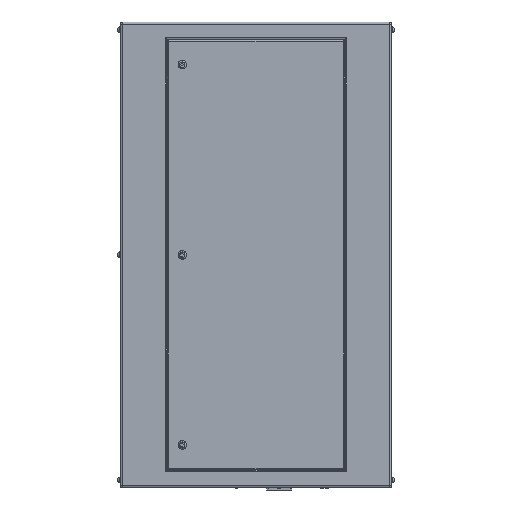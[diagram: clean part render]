
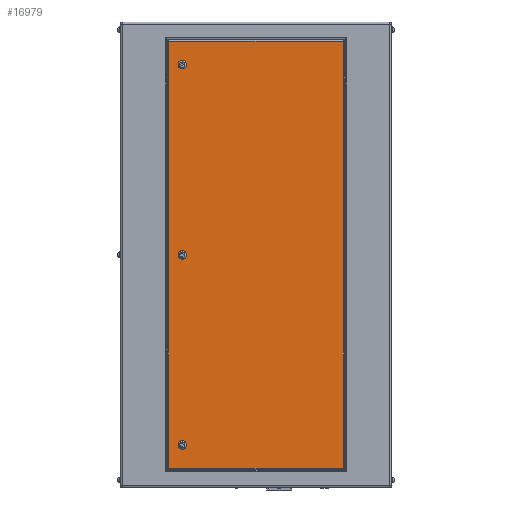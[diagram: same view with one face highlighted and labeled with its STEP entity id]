
A CAD part, left-side view. The second image highlights one B-rep face of the part: STEP entity #16979.
In plain terms, the highlighted planar face has unit normal (-1, 0, 0).
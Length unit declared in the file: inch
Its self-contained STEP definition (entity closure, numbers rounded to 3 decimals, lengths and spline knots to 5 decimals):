
#470 = LINE ( 'NONE', #32149, #36025 ) ;
#654 = VECTOR ( 'NONE', #27511, 39.37008 ) ;
#1061 = CARTESIAN_POINT ( 'NONE',  ( -18.5, 9.5, 25.05 ) ) ;
#1207 = DIRECTION ( 'NONE',  ( 0., 0., -1. ) ) ;
#1250 = PLANE ( 'NONE',  #4625 ) ;
#1652 = CARTESIAN_POINT ( 'NONE',  ( -18.5, 11.24, -27.49 ) ) ;
#1713 = VERTEX_POINT ( 'NONE', #10475 ) ;
#3262 = EDGE_LOOP ( 'NONE', ( #18543, #33400 ) ) ;
#3957 = DIRECTION ( 'NONE',  ( 0., -1., 0. ) ) ;
#4625 = AXIS2_PLACEMENT_3D ( 'NONE', #36324, #33641, #10284 ) ;
#4979 = EDGE_LOOP ( 'NONE', ( #34472, #18270 ) ) ;
#5206 = ORIENTED_EDGE ( 'NONE', *, *, #37235, .T. ) ;
#5911 = DIRECTION ( 'NONE',  ( 0., 0., -1. ) ) ;
#6804 = EDGE_LOOP ( 'NONE', ( #21046, #33631 ) ) ;
#6984 = ORIENTED_EDGE ( 'NONE', *, *, #23027, .T. ) ;
#8000 = DIRECTION ( 'NONE',  ( 1., 0., 0. ) ) ;
#8626 = EDGE_CURVE ( 'NONE', #36461, #21214, #36568, .T. ) ;
#9647 = CARTESIAN_POINT ( 'NONE',  ( -18.5, 17.5, -27.49 ) ) ;
#9952 = AXIS2_PLACEMENT_3D ( 'NONE', #18557, #27538, #1207 ) ;
#10088 = FACE_BOUND ( 'NONE', #3262, .T. ) ;
#10274 = CIRCLE ( 'NONE', #19325, 0.55 ) ;
#10284 = DIRECTION ( 'NONE',  ( 0., 0., -1. ) ) ;
#10460 = FACE_BOUND ( 'NONE', #4979, .T. ) ;
#10475 = CARTESIAN_POINT ( 'NONE',  ( -18.5, -11.24, -27.49 ) ) ;
#10758 = CARTESIAN_POINT ( 'NONE',  ( -18.5, -11.24, -30. ) ) ;
#10928 = CARTESIAN_POINT ( 'NONE',  ( -18.5, 9.5, 0.55 ) ) ;
#11238 = VERTEX_POINT ( 'NONE', #1652 ) ;
#11273 = DIRECTION ( 'NONE',  ( 1., 0., 0. ) ) ;
#12363 = VERTEX_POINT ( 'NONE', #10928 ) ;
#12943 = FACE_BOUND ( 'NONE', #6804, .T. ) ;
#13487 = FACE_OUTER_BOUND ( 'NONE', #14268, .T. ) ;
#13917 = EDGE_CURVE ( 'NONE', #1713, #29290, #21783, .T. ) ;
#13920 = VECTOR ( 'NONE', #34869, 39.37008 ) ;
#14268 = EDGE_LOOP ( 'NONE', ( #6984, #19681, #5206, #28813 ) ) ;
#15597 = CARTESIAN_POINT ( 'NONE',  ( -18.5, 9.5, -25.05 ) ) ;
#15982 = CARTESIAN_POINT ( 'NONE',  ( -18.5, 9.5, 23.95 ) ) ;
#16606 = CIRCLE ( 'NONE', #9952, 0.55 ) ;
#16871 = CIRCLE ( 'NONE', #18052, 0.55 ) ;
#16924 = AXIS2_PLACEMENT_3D ( 'NONE', #36842, #33992, #28690 ) ;
#16979 = ADVANCED_FACE ( 'NONE', ( #12943, #10460, #10088, #13487 ), #1250, .F. ) ;
#16990 = VERTEX_POINT ( 'NONE', #35941 ) ;
#18052 = AXIS2_PLACEMENT_3D ( 'NONE', #18663, #32779, #26698 ) ;
#18270 = ORIENTED_EDGE ( 'NONE', *, *, #36342, .T. ) ;
#18290 = CARTESIAN_POINT ( 'NONE',  ( -18.5, 11.24, -30. ) ) ;
#18543 = ORIENTED_EDGE ( 'NONE', *, *, #8626, .T. ) ;
#18557 = CARTESIAN_POINT ( 'NONE',  ( -18.5, 9.5, 0. ) ) ;
#18663 = CARTESIAN_POINT ( 'NONE',  ( -18.5, 9.5, 24.5 ) ) ;
#19325 = AXIS2_PLACEMENT_3D ( 'NONE', #19566, #34785, #5911 ) ;
#19410 = VERTEX_POINT ( 'NONE', #34949 ) ;
#19549 = DIRECTION ( 'NONE',  ( 0., 0., -1. ) ) ;
#19566 = CARTESIAN_POINT ( 'NONE',  ( -18.5, 9.5, -24.5 ) ) ;
#19681 = ORIENTED_EDGE ( 'NONE', *, *, #13917, .T. ) ;
#21046 = ORIENTED_EDGE ( 'NONE', *, *, #30597, .T. ) ;
#21214 = VERTEX_POINT ( 'NONE', #1061 ) ;
#21783 = LINE ( 'NONE', #10758, #654 ) ;
#22867 = DIRECTION ( 'NONE',  ( 0., 0., -1. ) ) ;
#23027 = EDGE_CURVE ( 'NONE', #11238, #1713, #30526, .T. ) ;
#23733 = EDGE_CURVE ( 'NONE', #21214, #36461, #16871, .T. ) ;
#24090 = VECTOR ( 'NONE', #3957, 39.37008 ) ;
#25185 = VERTEX_POINT ( 'NONE', #15597 ) ;
#25412 = CIRCLE ( 'NONE', #16924, 0.55 ) ;
#26692 = LINE ( 'NONE', #18290, #13920 ) ;
#26698 = DIRECTION ( 'NONE',  ( 0., 0., -1. ) ) ;
#26921 = CARTESIAN_POINT ( 'NONE',  ( -18.5, 11.24, 27.49 ) ) ;
#27511 = DIRECTION ( 'NONE',  ( 0., 0., 1. ) ) ;
#27538 = DIRECTION ( 'NONE',  ( 1., 0., 0. ) ) ;
#28690 = DIRECTION ( 'NONE',  ( 0., 0., -1. ) ) ;
#28694 = VERTEX_POINT ( 'NONE', #26921 ) ;
#28813 = ORIENTED_EDGE ( 'NONE', *, *, #29969, .T. ) ;
#29116 = DIRECTION ( 'NONE',  ( 0., 1., 0. ) ) ;
#29290 = VERTEX_POINT ( 'NONE', #32910 ) ;
#29969 = EDGE_CURVE ( 'NONE', #28694, #11238, #26692, .T. ) ;
#30526 = LINE ( 'NONE', #9647, #24090 ) ;
#30597 = EDGE_CURVE ( 'NONE', #25185, #19410, #10274, .T. ) ;
#30909 = EDGE_CURVE ( 'NONE', #19410, #25185, #25412, .T. ) ;
#31208 = CIRCLE ( 'NONE', #36053, 0.55 ) ;
#32149 = CARTESIAN_POINT ( 'NONE',  ( -18.5, 17.5, 27.49 ) ) ;
#32779 = DIRECTION ( 'NONE',  ( 1., 0., 0. ) ) ;
#32910 = CARTESIAN_POINT ( 'NONE',  ( -18.5, -11.24, 27.49 ) ) ;
#33400 = ORIENTED_EDGE ( 'NONE', *, *, #23733, .T. ) ;
#33631 = ORIENTED_EDGE ( 'NONE', *, *, #30909, .T. ) ;
#33641 = DIRECTION ( 'NONE',  ( 1., 0., 0. ) ) ;
#33992 = DIRECTION ( 'NONE',  ( 1., 0., 0. ) ) ;
#34472 = ORIENTED_EDGE ( 'NONE', *, *, #36547, .T. ) ;
#34785 = DIRECTION ( 'NONE',  ( 1., 0., 0. ) ) ;
#34842 = CARTESIAN_POINT ( 'NONE',  ( -18.5, 9.5, 0. ) ) ;
#34869 = DIRECTION ( 'NONE',  ( 0., 0., -1. ) ) ;
#34949 = CARTESIAN_POINT ( 'NONE',  ( -18.5, 9.5, -23.95 ) ) ;
#35941 = CARTESIAN_POINT ( 'NONE',  ( -18.5, 9.5, -0.55 ) ) ;
#35946 = AXIS2_PLACEMENT_3D ( 'NONE', #36873, #8000, #19549 ) ;
#36025 = VECTOR ( 'NONE', #29116, 39.37008 ) ;
#36053 = AXIS2_PLACEMENT_3D ( 'NONE', #34842, #11273, #22867 ) ;
#36324 = CARTESIAN_POINT ( 'NONE',  ( -18.5, 17.5, -30. ) ) ;
#36342 = EDGE_CURVE ( 'NONE', #12363, #16990, #31208, .T. ) ;
#36461 = VERTEX_POINT ( 'NONE', #15982 ) ;
#36547 = EDGE_CURVE ( 'NONE', #16990, #12363, #16606, .T. ) ;
#36568 = CIRCLE ( 'NONE', #35946, 0.55 ) ;
#36842 = CARTESIAN_POINT ( 'NONE',  ( -18.5, 9.5, -24.5 ) ) ;
#36873 = CARTESIAN_POINT ( 'NONE',  ( -18.5, 9.5, 24.5 ) ) ;
#37235 = EDGE_CURVE ( 'NONE', #29290, #28694, #470, .T. ) ;
